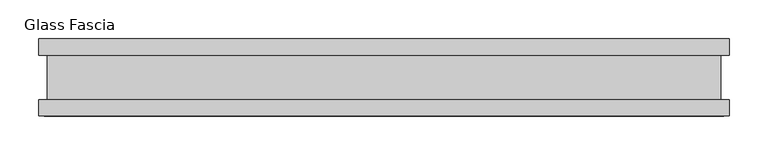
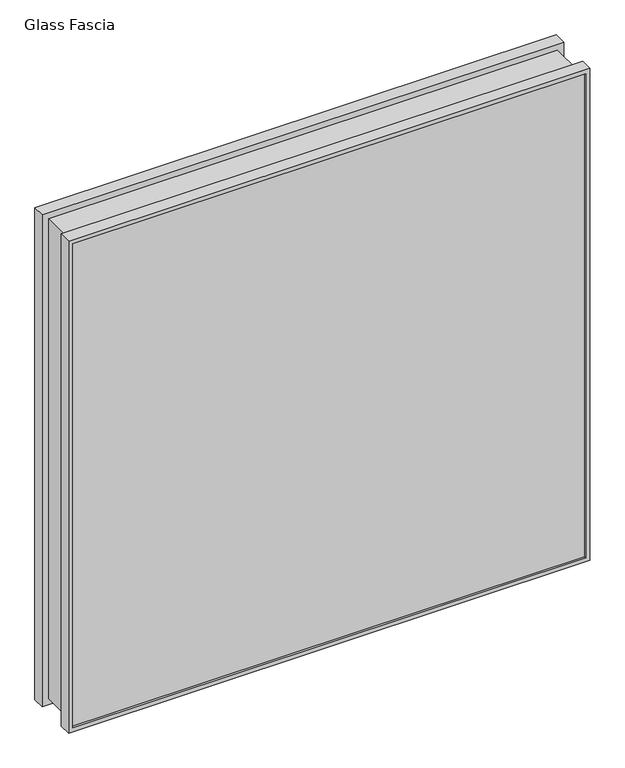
"""IFC4 building model written with IfcOpenShell, lengths in millimetres: proxy geometry, Panel-Fascia-Teknion-Altos-Glass : Glass Fascia."""

import ifcopenshell
import ifcopenshell.guid

model = None  # the IFC model being written
_history = None  # IfcOwnerHistory: only IFC2X3 demands one
_inside = {}  # id of a spatial element -> (the spatial element, [elements in it])
_under = {}  # id of a project, library or spatial element -> (it, [spatial elements below it])
_declared = {}  # id of a project -> (the project, [libraries it declares])
_typed = {}  # id of a type object -> (the type object, [elements of that type])
_made_of = {}  # id of a material, layer set ... -> (it, [elements and type objects made of it])


def new_model(schema):
    """Start an empty IFC model of exactly this schema.

    Asked for "IFC4X3", IfcOpenShell would pick the latest addendum, in which some entities
    have other attributes; the version numbers below select the first issue.
    IFC2X3 requires an IfcOwnerHistory on every rooted entity: one is made here for all.
    """
    global model, _history
    if schema == "IFC4X3":
        model = ifcopenshell.file(schema_version=(4, 3, 0, 0))
    else:
        model = ifcopenshell.file(schema=schema)
    _inside.clear()
    _under.clear()
    _declared.clear()
    _typed.clear()
    _made_of.clear()
    _history = None
    if model.schema == "IFC2X3":
        org = make("IfcOrganization", Name="unknown")
        user = make(
            "IfcPersonAndOrganization",
            ThePerson=make("IfcPerson", FamilyName="unknown"),
            TheOrganization=org,
        )
        app = make(
            "IfcApplication",
            ApplicationDeveloper=org,
            Version="unknown",
            ApplicationFullName="unknown",
            ApplicationIdentifier="unknown",
        )
        _history = make(
            "IfcOwnerHistory",
            OwningUser=user,
            OwningApplication=app,
            ChangeAction="ADDED",
            CreationDate=0,
        )
    return model


def make(cls, **values):
    """One entity of the class cls with the attributes given. An attribute that is None is left unset."""
    return model.create_entity(
        cls, **{name: value for name, value in values.items() if value is not None}
    )


def rooted(cls, **values):
    """An entity with a GlobalId (a new one), such as an element, a storey or a relation."""
    return make(cls, GlobalId=ifcopenshell.guid.new(), OwnerHistory=_history, **values)


def si_unit(unit_type, name, prefix=None):
    """IfcSIUnit, for example si_unit("LENGTHUNIT", "METRE", prefix="MILLI")."""
    return make("IfcSIUnit", UnitType=unit_type, Prefix=prefix, Name=name)


def assignment(units):
    """IfcUnitAssignment: the units of a project."""
    return None if units is None else make("IfcUnitAssignment", Units=units)


def point(xyz):
    """IfcCartesianPoint."""
    return None if xyz is None else make("IfcCartesianPoint", Coordinates=xyz)


def direction(xyz):
    """IfcDirection."""
    return None if xyz is None else make("IfcDirection", DirectionRatios=xyz)


def frame(location, z_axis=None, x_axis=None):
    """IfcAxis2Placement3D, a coordinate frame: its origin and axes. An axis left out is left unset."""
    return make(
        "IfcAxis2Placement3D",
        Location=point(location),
        Axis=direction(z_axis),
        RefDirection=direction(x_axis),
    )


def origin():
    """The frame at (0, 0, 0) with its axes left unset."""
    return frame((0.0, 0.0, 0.0))


def place(relative_to, where):
    """IfcLocalPlacement: puts the frame where relative to a parent placement (None: the world)."""
    return make(
        "IfcLocalPlacement", PlacementRelTo=relative_to, RelativePlacement=where
    )


def context(
    kind, dimensions, precision=None, world=None, true_north=None, identifier=None
):
    """IfcGeometricRepresentationContext, for example the 3D "Model" context."""
    return make(
        "IfcGeometricRepresentationContext",
        ContextIdentifier=identifier,
        ContextType=kind,
        CoordinateSpaceDimension=dimensions,
        Precision=precision,
        WorldCoordinateSystem=world,
        TrueNorth=true_north,
    )


def project(units=None, contexts=None):
    """IfcProject with its units and contexts."""
    return rooted(
        "IfcProject",
        Name="project",
        RepresentationContexts=contexts,
        UnitsInContext=assignment(units),
    )


def spatial(cls, under=None, at=None, **own):
    """A site, building, storey or space (cls), placed at a placement, below another one or the project."""
    s = rooted(cls, ObjectPlacement=at, **own)
    if under is not None:
        _under.setdefault(under.id(), (under, []))[1].append(s)
    return s


def polyline(points):
    """IfcPolyline through the points."""
    return make("IfcPolyline", Points=[point(p) for p in points])


def ellipse_curve(where, semi_axis1, semi_axis2):
    """IfcEllipse in the frame where."""
    return make(
        "IfcEllipse", Position=where, SemiAxis1=semi_axis1, SemiAxis2=semi_axis2
    )


def outline(outer, holes=None, kind="AREA"):
    """IfcArbitraryClosedProfileDef: a profile drawn as a closed curve; with holes, ...WithVoids."""
    if holes is None:
        return make("IfcArbitraryClosedProfileDef", ProfileType=kind, OuterCurve=outer)
    return make(
        "IfcArbitraryProfileDefWithVoids",
        ProfileType=kind,
        OuterCurve=outer,
        InnerCurves=holes,
    )


def extrude(swept, where, along, depth):
    """IfcExtrudedAreaSolid: the profile swept, set in the frame where, extruded along a direction by depth."""
    return make(
        "IfcExtrudedAreaSolid",
        SweptArea=swept,
        Position=where,
        ExtrudedDirection=direction(along),
        Depth=depth,
    )


def shape(context_of_items, identifier, shape_type, items):
    """IfcShapeRepresentation: the items that make up one representation, for example the "Body"."""
    return make(
        "IfcShapeRepresentation",
        ContextOfItems=context_of_items,
        RepresentationIdentifier=identifier,
        RepresentationType=shape_type,
        Items=items,
    )


def source(mapping_origin, context_of_items, identifier, shape_type, items):
    """IfcRepresentationMap: a shape defined once, which mapped items show again and again."""
    return make(
        "IfcRepresentationMap",
        MappingOrigin=mapping_origin,
        MappedRepresentation=shape(context_of_items, identifier, shape_type, items),
    )


def transform(
    local_origin,
    x_axis=None,
    y_axis=None,
    z_axis=None,
    scale=None,
    scale2=None,
    scale3=None,
    uniform=True,
):
    """IfcCartesianTransformationOperator3D, or its non-uniform kind. x_axis, y_axis, z_axis: its Axis1, 2, 3."""
    if uniform:
        return make(
            "IfcCartesianTransformationOperator3D",
            Axis1=direction(x_axis),
            Axis2=direction(y_axis),
            LocalOrigin=point(local_origin),
            Scale=scale,
            Axis3=direction(z_axis),
        )
    return make(
        "IfcCartesianTransformationOperator3DnonUniform",
        Axis1=direction(x_axis),
        Axis2=direction(y_axis),
        LocalOrigin=point(local_origin),
        Scale=scale,
        Axis3=direction(z_axis),
        Scale2=scale2,
        Scale3=scale3,
    )


def mapped(mapping_source, mapping_target):
    """IfcMappedItem: shows the shape of a source again, moved by a transform."""
    return make(
        "IfcMappedItem", MappingSource=mapping_source, MappingTarget=mapping_target
    )


def made_of(thing, what):
    """Note that an element or type object is made of a material, layer set ...; save() writes the relation."""
    if what is not None:
        _made_of.setdefault(what.id(), (what, []))[1].append(thing)
    return thing


def element(
    cls,
    number,
    at=None,
    inside=None,
    cuts=None,
    type_object=None,
    material=None,
    context=None,
    identifier="Body",
    shape_type=None,
    held_by="IfcProductDefinitionShape",
    body=None,
    shapes=None,
    **own,
):
    """One element of the class cls, such as IfcWall. Its Tag is "e" and its number.

    at: its placement. inside: the storey or other place that contains it. cuts: it is an
    opening in that element (IfcRelVoidsElement). A single representation is given by context,
    identifier, shape_type and body (its items); several are given by shapes. held_by: the class
    of the entity that holds the representations. save() writes the other relations.
    """
    e = rooted(cls, Tag="e%d" % number, ObjectPlacement=at, **own)
    if body is not None:
        shapes = [shape(context, identifier, shape_type, body)]
    if shapes is not None:
        e.Representation = make(held_by, Representations=shapes)
    if inside is not None:
        _inside.setdefault(inside.id(), (inside, []))[1].append(e)
    if cuts is not None:
        rooted(
            "IfcRelVoidsElement", RelatingBuildingElement=cuts, RelatedOpeningElement=e
        )
    if type_object is not None:
        _typed.setdefault(type_object.id(), (type_object, []))[1].append(e)
    return made_of(e, material)


def aggregate(whole, parts):
    """IfcRelAggregates: a whole, such as a stair, and the parts it consists of."""
    return rooted("IfcRelAggregates", RelatingObject=whole, RelatedObjects=parts)


def save(model, path):
    """Write the relations noted so far, then the file.

    IfcRelAggregates (storeys below a building ...), IfcRelContainedInSpatialStructure (elements
    in a storey), IfcRelDefinesByType, IfcRelAssociatesMaterial and IfcRelDeclares: one each for
    every whole, place, type object, material and project.
    """
    for whole, parts in _under.values():
        aggregate(whole, parts)
    for where, things in _inside.values():
        rooted(
            "IfcRelContainedInSpatialStructure",
            RelatedElements=things,
            RelatingStructure=where,
        )
    for kind, things in _typed.values():
        rooted("IfcRelDefinesByType", RelatedObjects=things, RelatingType=kind)
    for what, things in _made_of.values():
        rooted("IfcRelAssociatesMaterial", RelatedObjects=things, RelatingMaterial=what)
    for by, libraries in _declared.values():
        rooted("IfcRelDeclares", RelatingContext=by, RelatedDefinitions=libraries)
    model.write(path)


def plane_surface(at):
    """IfcPlane: the flat surface through the origin of the frame at, square to its z axis."""
    return make("IfcPlane", Position=at)


def cylinder_surface(at, radius):
    """IfcCylindricalSurface: all points at the distance radius from the z axis of the frame at."""
    return make("IfcCylindricalSurface", Position=at, Radius=radius)


def advanced_brep(points, edges, surfaces, faces):
    """IfcAdvancedBrep: a solid bounded by faces that lie on surfaces and meet in shared edges.

    An edge is (start, end): straight between two places in points (the first is 0);
    or (start, end, curve); or (start, end, curve, False) where it runs against its curve.
    A face is (place in surfaces, loops), or (place, loops, False) where it looks against
    its surface's normal. A loop lists edges by number (the first is 1), with a minus sign
    where the edge is run from its end to its start. The first loop is the outer one.
    """
    corners = [point(p) for p in points]
    vertices = [make("IfcVertexPoint", VertexGeometry=c) for c in corners]
    made = []
    for start, end, *more in edges:
        made.append(
            make(
                "IfcEdgeCurve",
                EdgeStart=vertices[start],
                EdgeEnd=vertices[end],
                EdgeGeometry=more[0] if more else make("IfcPolyline", Points=[corners[start], corners[end]]),
                SameSense=more[1] if len(more) > 1 else True,
            )
        )
    hull = []
    for where, loops, *sense in faces:
        bounds = []
        for j, loop in enumerate(loops):
            ring = [make("IfcOrientedEdge", EdgeElement=made[abs(k) - 1], Orientation=k > 0) for k in loop]
            bounds.append(
                make(
                    "IfcFaceOuterBound" if j == 0 else "IfcFaceBound",
                    Bound=make("IfcEdgeLoop", EdgeList=ring),
                    Orientation=True,
                )
            )
        hull.append(make("IfcAdvancedFace", Bounds=bounds, FaceSurface=surfaces[where], SameSense=sense[0] if sense else True))
    return make("IfcAdvancedBrep", Outer=make("IfcClosedShell", CfsFaces=hull))


def glass_fascia_6f81bcf7(model_context):
    return source(origin(), model_context, "Body", "SolidModel", [
        advanced_brep(
        [(447.0670757, 50.0558594, 895.35), (447.0670757, 28.2698798, 895.35), (447.0670757, 28.2698798, 3.175), (447.0670757, 50.0558594, 3.175), (439.6318679, 47.1322551, 887.9147922), (439.6318679, 50.0558594, 887.9147922), (439.6318679, 50.0558594, 10.6102078), (439.6318679, 47.1322551, 10.6102078), (444.9145495, 41.1791301, 893.1974737), (444.9145495, 47.1322551, 893.1974737), (444.9145495, 47.1322551, 5.3275263), (444.9145495, 41.1791301, 5.3275263), (439.1096603, -40.9277344, 887.3925845), (439.1096603, 41.1791301, 887.3925845), (439.1096603, 41.1791301, 11.1324155), (439.1096603, -40.9277344, 11.1324155), (444.9145495, -46.8808594, 893.1974737), (444.9145495, -40.9277344, 893.1974737), (444.9145495, -40.9277344, 5.3275263), (444.9145495, -46.8808594, 5.3275263), (439.6318679, -50.0558594, 887.9147922), (439.6318679, -46.8808594, 887.9147922), (439.6318679, -46.8808594, 10.6102078), (439.6318679, -50.0558594, 10.6102078), (447.0670757, -28.8801202, 895.35), (447.0670757, -50.0558594, 895.35), (447.0670757, -50.0558594, 3.175), (447.0670757, -28.8801202, 3.175), (436.2152344, 28.2698798, 884.4981586), (436.2152344, -28.8801202, 884.4981586), (436.2152344, -28.8801202, 14.0268414), (436.2152344, 28.2698798, 14.0268414), (-447.0670757, 28.2698798, 3.175), (-447.0670757, 50.0558594, 3.175), (-439.6318679, 50.0558594, 10.6102078), (-439.6318679, 47.1322551, 10.6102078), (-444.9145495, 47.1322551, 5.3275263), (-444.9145495, 41.1791301, 5.3275263), (-439.1096603, 41.1791301, 11.1324155), (-439.1096603, -40.9277344, 11.1324155), (-444.9145495, -40.9277344, 5.3275263), (-444.9145495, -46.8808594, 5.3275263), (-439.6318679, -46.8808594, 10.6102078), (-439.6318679, -50.0558594, 10.6102078), (-447.0670757, -50.0558594, 3.175), (-447.0670757, -28.8801202, 3.175), (-436.2152344, -28.8801202, 14.0268414), (-436.2152344, 28.2698798, 14.0268414), (-447.0670757, 28.2698798, 895.35), (-447.0670757, 50.0558594, 895.35), (-439.6318679, 50.0558594, 887.9147922), (-439.6318679, 47.1322551, 887.9147922), (-444.9145495, 47.1322551, 893.1974737), (-444.9145495, 41.1791301, 893.1974737), (-439.1096603, 41.1791301, 887.3925845), (-439.1096603, -40.9277344, 887.3925845), (-444.9145495, -40.9277344, 893.1974737), (-444.9145495, -46.8808594, 893.1974737), (-439.6318679, -46.8808594, 887.9147922), (-439.6318679, -50.0558594, 887.9147922), (-447.0670757, -50.0558594, 895.35), (-447.0670757, -28.8801202, 895.35), (-436.2152344, -28.8801202, 884.4981586), (-436.2152344, 28.2698798, 884.4981586)],
        [
            (0, 1),
            (1, 2),
            (2, 3),
            (3, 0),
            (4, 5),
            (5, 6),
            (6, 7),
            (7, 4),
            (8, 9),
            (9, 10),
            (10, 11),
            (11, 8),
            (12, 13, ellipse_curve(frame((478.4955026, 0.1256979, 926.7784268), z_axis=(0.7071067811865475, 0.0, -0.7071067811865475), x_axis=(0.7071067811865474, 0.0, 0.7071067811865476)), 80.4565581, 56.8913778)),
            (13, 14),
            (14, 15, ellipse_curve(frame((478.4955026, 0.1256979, -28.2534268), z_axis=(0.7071067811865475, 0.0, 0.7071067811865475), x_axis=(-0.7071067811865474, 0.0, 0.7071067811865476)), 80.4565581, 56.8913778)),
            (15, 12),
            (16, 17),
            (17, 18),
            (18, 19),
            (19, 16),
            (20, 21),
            (21, 22),
            (22, 23),
            (23, 20),
            (24, 25),
            (25, 26),
            (26, 27),
            (27, 24),
            (28, 29),
            (29, 30),
            (30, 31),
            (31, 28),
            (2, 32),
            (32, 33),
            (33, 3),
            (6, 34),
            (34, 35),
            (35, 7),
            (10, 36),
            (36, 37),
            (37, 11),
            (14, 38),
            (38, 39, ellipse_curve(frame((-478.4955026, 0.1256979, -28.2534268), z_axis=(0.7071067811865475, 0.0, -0.7071067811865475), x_axis=(0.7071067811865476, 0.0, 0.7071067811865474)), 80.4565581, 56.8913778)),
            (39, 15),
            (18, 40),
            (40, 41),
            (41, 19),
            (22, 42),
            (42, 43),
            (43, 23),
            (26, 44),
            (44, 45),
            (45, 27),
            (30, 46),
            (46, 47),
            (47, 31),
            (32, 48),
            (48, 49),
            (49, 33),
            (34, 50),
            (50, 51),
            (51, 35),
            (36, 52),
            (52, 53),
            (53, 37),
            (38, 54),
            (54, 55, ellipse_curve(frame((-478.4955026, 0.1256979, 926.7784268), z_axis=(-0.7071067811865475, 0.0, -0.7071067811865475), x_axis=(0.7071067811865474, 0.0, -0.7071067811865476)), 80.4565581, 56.8913778)),
            (55, 39),
            (40, 56),
            (56, 57),
            (57, 41),
            (42, 58),
            (58, 59),
            (59, 43),
            (44, 60),
            (60, 61),
            (61, 45),
            (46, 62),
            (62, 63),
            (63, 47),
            (48, 1),
            (0, 49),
            (5, 50),
            (4, 51),
            (9, 52),
            (8, 53),
            (13, 54),
            (12, 55),
            (17, 56),
            (16, 57),
            (21, 58),
            (20, 59),
            (25, 60),
            (24, 61),
            (29, 62),
            (28, 63),
        ],
        [
            plane_surface(frame((447.0670757, 28.2698798, 895.35), z_axis=(1.0, 0.0, 0.0), x_axis=(0.0, 0.0, -1.0))),
            plane_surface(frame((439.6318679, 50.0558594, 887.9147922), z_axis=(-1.0, 0.0, 0.0), x_axis=(0.0, 0.0, -1.0))),
            plane_surface(frame((444.9145495, 47.1322551, 893.1974737), z_axis=(-1.0, 0.0, 0.0), x_axis=(0.0, 0.0, -1.0))),
            cylinder_surface(frame((478.4955026, 0.1256979, 895.35), z_axis=(0.0, 0.0, 1.0), x_axis=(1.0, 0.0, 0.0)), 56.8913778),
            plane_surface(frame((444.9145495, -40.9277344, 893.1974737), z_axis=(-1.0, 0.0, 0.0), x_axis=(0.0, 0.0, -1.0))),
            plane_surface(frame((439.6318679, -46.8808594, 887.9147922), z_axis=(-1.0, 0.0, 0.0), x_axis=(0.0, 0.0, -1.0))),
            plane_surface(frame((447.0670757, -50.0558594, 895.35), z_axis=(1.0, 0.0, 0.0), x_axis=(0.0, 0.0, -1.0))),
            plane_surface(frame((436.2152344, -28.8801202, 884.4981586), z_axis=(1.0, 0.0, 0.0), x_axis=(0.0, 0.0, -1.0))),
            plane_surface(frame((447.0670757, 28.2698798, 3.175), z_axis=(0.0, 0.0, -1.0), x_axis=(-1.0, 0.0, 0.0))),
            plane_surface(frame((439.6318679, 50.0558594, 10.6102078), z_axis=(0.0, 0.0, 1.0), x_axis=(-1.0, 0.0, 0.0))),
            plane_surface(frame((444.9145495, 47.1322551, 5.3275263), z_axis=(0.0, 0.0, 1.0), x_axis=(-1.0, 0.0, 0.0))),
            cylinder_surface(frame((447.0670757, 0.1256979, -28.2534268), z_axis=(1.0, 0.0, 0.0), x_axis=(0.0, 0.0, -1.0)), 56.8913778),
            plane_surface(frame((444.9145495, -40.9277344, 5.3275263), z_axis=(0.0, 0.0, 1.0), x_axis=(-1.0, 0.0, 0.0))),
            plane_surface(frame((439.6318679, -46.8808594, 10.6102078), z_axis=(0.0, 0.0, 1.0), x_axis=(-1.0, 0.0, 0.0))),
            plane_surface(frame((447.0670757, -50.0558594, 3.175), z_axis=(0.0, 0.0, -1.0), x_axis=(-1.0, 0.0, 0.0))),
            plane_surface(frame((436.2152344, -28.8801202, 14.0268414), z_axis=(0.0, 0.0, -1.0), x_axis=(-1.0, 0.0, 0.0))),
            plane_surface(frame((-447.0670757, 28.2698798, 3.175), z_axis=(-1.0, 0.0, 0.0), x_axis=(0.0, 0.0, 1.0))),
            plane_surface(frame((-439.6318679, 50.0558594, 10.6102078), z_axis=(1.0, 0.0, 0.0), x_axis=(0.0, 0.0, 1.0))),
            plane_surface(frame((-444.9145495, 47.1322551, 5.3275263), z_axis=(1.0, 0.0, 0.0), x_axis=(0.0, 0.0, 1.0))),
            cylinder_surface(frame((-478.4955026, 0.1256979, 3.175), z_axis=(0.0, 0.0, -1.0), x_axis=(-1.0, 0.0, 0.0)), 56.8913778),
            plane_surface(frame((-444.9145495, -40.9277344, 5.3275263), z_axis=(1.0, 0.0, 0.0), x_axis=(0.0, 0.0, 1.0))),
            plane_surface(frame((-439.6318679, -46.8808594, 10.6102078), z_axis=(1.0, 0.0, 0.0), x_axis=(0.0, 0.0, 1.0))),
            plane_surface(frame((-447.0670757, -50.0558594, 3.175), z_axis=(-1.0, 0.0, 0.0), x_axis=(0.0, 0.0, 1.0))),
            plane_surface(frame((-436.2152344, -28.8801202, 14.0268414), z_axis=(-1.0, 0.0, 0.0), x_axis=(0.0, 0.0, 1.0))),
            plane_surface(frame((-447.0670757, 28.2698798, 895.35), z_axis=(0.0, 0.0, 1.0), x_axis=(1.0, 0.0, 0.0))),
            plane_surface(frame((-447.0670757, 50.0558594, 895.35), z_axis=(0.0, 1.0, 0.0), x_axis=(1.0, 0.0, 0.0))),
            plane_surface(frame((-439.6318679, 50.0558594, 887.9147922), z_axis=(0.0, 0.0, -1.0), x_axis=(1.0, 0.0, 0.0))),
            plane_surface(frame((-439.6318679, 47.1322551, 887.9147922), z_axis=(0.0, -1.0, 0.0), x_axis=(1.0, 0.0, 0.0))),
            plane_surface(frame((-444.9145495, 47.1322551, 893.1974737), z_axis=(0.0, 0.0, -1.0), x_axis=(1.0, 0.0, 0.0))),
            plane_surface(frame((-444.9145495, 41.1791301, 893.1974737), z_axis=(0.0, 1.0, 0.0), x_axis=(1.0, 0.0, 0.0))),
            cylinder_surface(frame((-447.0670757, 0.1256979, 926.7784268), z_axis=(-1.0, 0.0, 0.0), x_axis=(0.0, 0.0, 1.0)), 56.8913778),
            plane_surface(frame((-439.1096603, -40.9277344, 887.3925845), z_axis=(0.0, -1.0, 0.0), x_axis=(1.0, 0.0, 0.0))),
            plane_surface(frame((-444.9145495, -40.9277344, 893.1974737), z_axis=(0.0, 0.0, -1.0), x_axis=(1.0, 0.0, 0.0))),
            plane_surface(frame((-444.9145495, -46.8808594, 893.1974737), z_axis=(0.0, 1.0, 0.0), x_axis=(1.0, 0.0, 0.0))),
            plane_surface(frame((-439.6318679, -46.8808594, 887.9147922), z_axis=(0.0, 0.0, -1.0), x_axis=(1.0, 0.0, 0.0))),
            plane_surface(frame((-439.6318679, -50.0558594, 887.9147922), z_axis=(0.0, -1.0, 0.0), x_axis=(1.0, 0.0, 0.0))),
            plane_surface(frame((-447.0670757, -50.0558594, 895.35), z_axis=(0.0, 0.0, 1.0), x_axis=(1.0, 0.0, 0.0))),
            plane_surface(frame((-447.0670757, -28.8801202, 895.35), z_axis=(0.0, 1.0, 0.0), x_axis=(1.0, 0.0, 0.0))),
            plane_surface(frame((-436.2152344, -28.8801202, 884.4981586), z_axis=(0.0, 0.0, 1.0), x_axis=(1.0, 0.0, 0.0))),
            plane_surface(frame((-436.2152344, 28.2698798, 884.4981586), z_axis=(0.0, -1.0, 0.0), x_axis=(1.0, 0.0, 0.0))),
        ],
        [
            (0, [[1, 2, 3, 4]]),
            (1, [[5, 6, 7, 8]]),
            (2, [[9, 10, 11, 12]]),
            (3, [[13, 14, 15, 16]]),
            (4, [[17, 18, 19, 20]]),
            (5, [[21, 22, 23, 24]]),
            (6, [[25, 26, 27, 28]]),
            (7, [[29, 30, 31, 32]]),
            (8, [[-3, 33, 34, 35]]),
            (9, [[-7, 36, 37, 38]]),
            (10, [[-11, 39, 40, 41]]),
            (11, [[-15, 42, 43, 44]]),
            (12, [[-19, 45, 46, 47]]),
            (13, [[-23, 48, 49, 50]]),
            (14, [[-27, 51, 52, 53]]),
            (15, [[-31, 54, 55, 56]]),
            (16, [[-34, 57, 58, 59]]),
            (17, [[-37, 60, 61, 62]]),
            (18, [[-40, 63, 64, 65]]),
            (19, [[-43, 66, 67, 68]]),
            (20, [[-46, 69, 70, 71]]),
            (21, [[-49, 72, 73, 74]]),
            (22, [[-52, 75, 76, 77]]),
            (23, [[-55, 78, 79, 80]]),
            (24, [[-58, 81, -1, 82]]),
            (25, [[-35, -59, -82, -4], [83, -60, -36, -6]]),
            (26, [[-61, -83, -5, 84]]),
            (27, [[85, -63, -39, -10], [-38, -62, -84, -8]]),
            (28, [[-64, -85, -9, 86]]),
            (29, [[-41, -65, -86, -12], [87, -66, -42, -14]]),
            (30, [[-67, -87, -13, 88]]),
            (31, [[89, -69, -45, -18], [-44, -68, -88, -16]]),
            (32, [[-70, -89, -17, 90]]),
            (33, [[-47, -71, -90, -20], [91, -72, -48, -22]]),
            (34, [[-73, -91, -21, 92]]),
            (35, [[93, -75, -51, -26], [-50, -74, -92, -24]]),
            (36, [[-76, -93, -25, 94]]),
            (37, [[-53, -77, -94, -28], [95, -78, -54, -30]]),
            (38, [[-79, -95, -29, 96]]),
            (39, [[-81, -57, -33, -2], [-56, -80, -96, -32]]),
        ],
    ),
        extrude(outline(polyline([(444.9145495, -40.9277344), (444.9145495, -46.8808594), (-444.9145495, -46.8808594), (-444.9145495, -40.9277344), (444.9145495, -40.9277344)])), frame((0.0, 0.0, 5.3275263), z_axis=(0.0, 0.0, 1.0), x_axis=(1.0, 0.0, 0.0)), (0.0, 0.0, 1.0), 887.375928),
        extrude(outline(polyline([(444.9145495, 41.1791301), (-444.9145495, 41.1791301), (-444.9145495, 47.1322551), (444.9145495, 47.1322551), (444.9145495, 41.1791301)])), frame((0.0, 0.0, 5.3275263), z_axis=(0.0, 0.0, 1.0), x_axis=(1.0, 0.0, 0.0)), (0.0, 0.0, 1.0), 887.375928),
    ])


if __name__ == "__main__":
    model = new_model("IFC4")
    model_context = context("Model", 3, world=origin())
    ifc_project = project(units=[si_unit("LENGTHUNIT", "METRE", prefix="MILLI")], contexts=[model_context])
    site = spatial("IfcSite", under=ifc_project)
    building = spatial("IfcBuilding", under=site)
    placement = place(None, origin())
    glass_fascia_shape = glass_fascia_6f81bcf7(model_context)
    element("IfcBuildingElementProxy", 1, Name="Panel-Fascia-Teknion-Altos-Glass : Glass Fascia", ObjectType="Panel-Fascia-Teknion-Altos-Glass : Glass Fascia", at=placement, inside=building, context=model_context, shape_type="MappedRepresentation", body=[
        mapped(glass_fascia_shape, transform((0.0, 0.0, 0.0), x_axis=(1.0, 0.0, 0.0), y_axis=(0.0, 1.0, 0.0), z_axis=(0.0, 0.0, 1.0))),
    ])
    save(model, "model.ifc")
